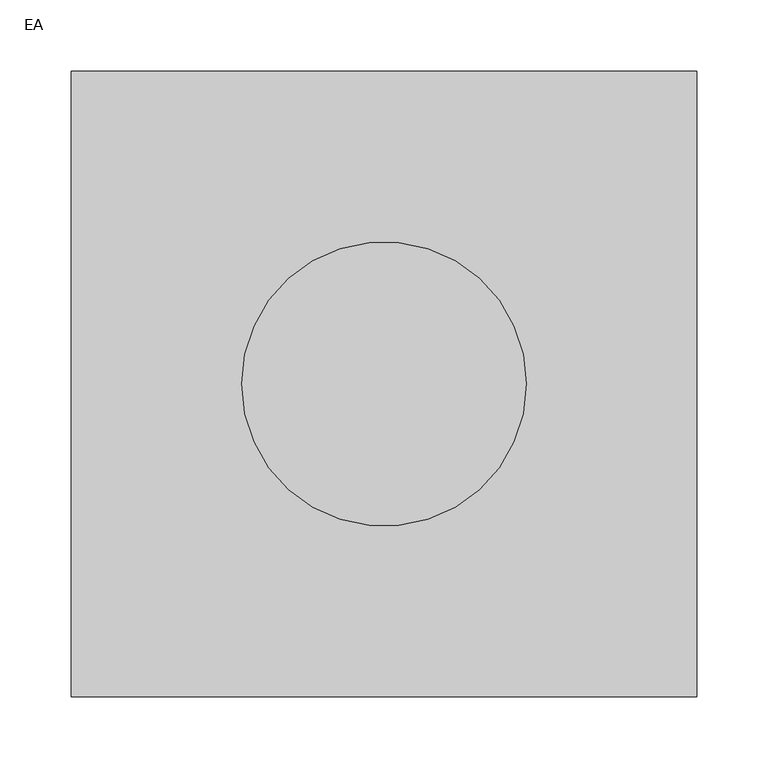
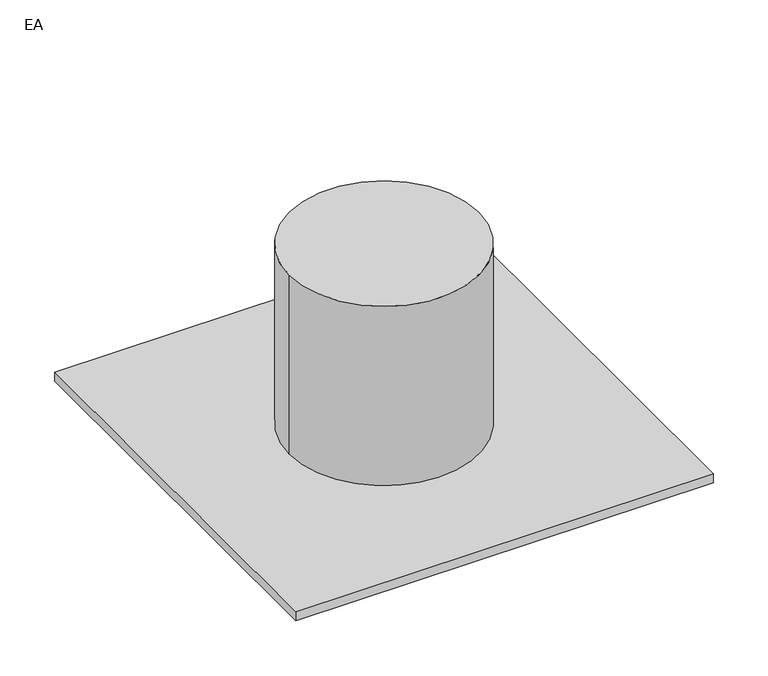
"""IFC4 building model written with IfcOpenShell, lengths in millimetres: air terminal geometry, 031_シーリングディフューザー : EA."""

from ifc_helpers import new_model, si_unit, point, frame, origin, origin_with_axes, origin_2d, place, context, project, spatial, polyline, circle_curve, trimmed, segment, composite_curve, outline, extrude, source, transform, mapped, element, save


def ea_147861d4(model_context):
    return source(origin(), model_context, "Body", "SweptSolid", [
        extrude(outline(polyline([(220.0, 220.0), (220.0, -220.0), (-220.0, -220.0), (-220.0, 220.0), (220.0, 220.0)])), frame((0.0, 0.0, -10.0), z_axis=(0.0, 0.0, 1.0), x_axis=(1.0, 0.0, 0.0)), (0.0, 0.0, 1.0), 10.0),
        extrude(outline(composite_curve([segment(trimmed(circle_curve(origin_2d(), 100.0), [point((-100.0, 0.0))], [point((100.0, 0.0))], False, "CARTESIAN"), True, "CONTINUOUS"), segment(trimmed(circle_curve(origin_2d(), 100.0), [point((100.0, 0.0))], [point((-100.0, 0.0))], False, "CARTESIAN"), True, "CONTINUOUS")], self_intersect=False)), origin_with_axes(), (0.0, 0.0, 1.0), 200.0),
    ])


if __name__ == "__main__":
    model = new_model("IFC4")
    model_context = context("Model", 3, world=origin())
    ifc_project = project(units=[si_unit("LENGTHUNIT", "METRE", prefix="MILLI")], contexts=[model_context])
    site = spatial("IfcSite", under=ifc_project)
    building = spatial("IfcBuilding", under=site)
    placement = place(None, origin())
    ea_shape = ea_147861d4(model_context)
    element("IfcAirTerminal", 1, ObjectType="031_シーリングディフューザー : EA", at=placement, inside=building, context=model_context, shape_type="MappedRepresentation", body=[
        mapped(ea_shape, transform((0.0, 0.0, 0.0), x_axis=(1.0, 0.0, 0.0), y_axis=(0.0, 1.0, 0.0), z_axis=(0.0, 0.0, 1.0))),
    ])
    save(model, "model.ifc")
